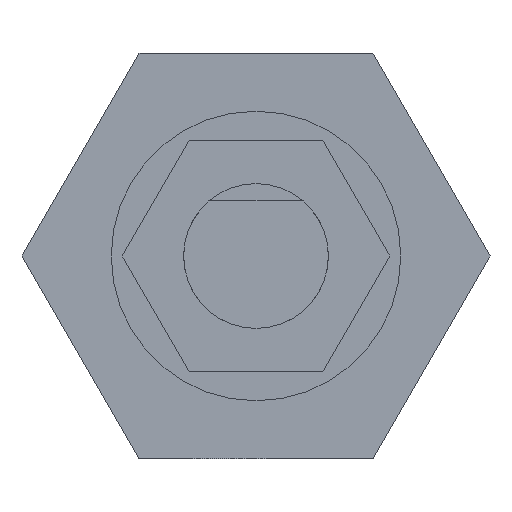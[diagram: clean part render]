
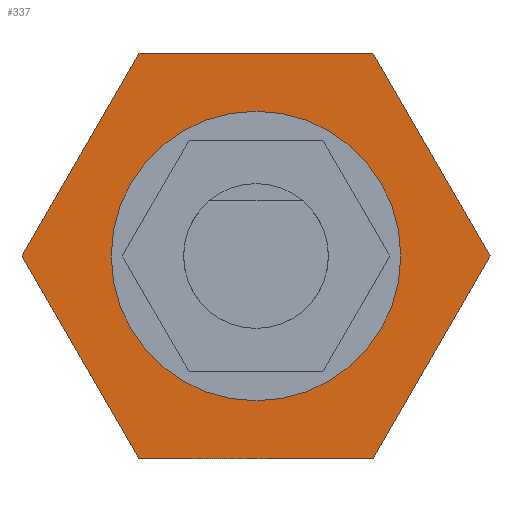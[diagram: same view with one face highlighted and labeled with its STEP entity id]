
A CAD part, left-side view. The second image highlights one B-rep face of the part: STEP entity #337.
In plain terms, the highlighted planar face has unit normal (-1, 0, 0).
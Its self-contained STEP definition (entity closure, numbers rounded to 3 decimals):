
#102 = LINE ( 'NONE', #122, #130 ) ;
#104 = DIRECTION ( 'NONE',  ( 0., 0., 1. ) ) ;
#114 = FACE_OUTER_BOUND ( 'NONE', #338, .T. ) ;
#118 = DIRECTION ( 'NONE',  ( -1., 0., 0. ) ) ;
#119 = CARTESIAN_POINT ( 'NONE',  ( -6., 0., 0. ) ) ;
#120 = AXIS2_PLACEMENT_3D ( 'NONE', #119, #118, #104 ) ;
#121 = PLANE ( 'NONE',  #120 ) ;
#122 = CARTESIAN_POINT ( 'NONE',  ( -6., 4.041, -7. ) ) ;
#123 = FACE_BOUND ( 'NONE', #431, .T. ) ;
#124 = DIRECTION ( 'NONE',  ( 0., 0.5, 0.866 ) ) ;
#125 = DIRECTION ( 'NONE',  ( 0., -1., 0. ) ) ;
#126 = VECTOR ( 'NONE', #125, 1000. ) ;
#127 = CARTESIAN_POINT ( 'NONE',  ( -6., 4.041, 7. ) ) ;
#128 = LINE ( 'NONE', #127, #126 ) ;
#129 = CARTESIAN_POINT ( 'NONE',  ( -6., -4.041, -7. ) ) ;
#130 = VECTOR ( 'NONE', #124, 1000. ) ;
#131 = CARTESIAN_POINT ( 'NONE',  ( -6., -4.041, 7. ) ) ;
#132 = LINE ( 'NONE', #140, #139 ) ;
#133 = CARTESIAN_POINT ( 'NONE',  ( -6., -8.083, 0. ) ) ;
#134 = DIRECTION ( 'NONE',  ( 0., -0.5, -0.866 ) ) ;
#135 = VECTOR ( 'NONE', #134, 1000. ) ;
#136 = CARTESIAN_POINT ( 'NONE',  ( -6., -4.041, 7. ) ) ;
#137 = LINE ( 'NONE', #136, #135 ) ;
#138 = DIRECTION ( 'NONE',  ( 0., 0.5, -0.866 ) ) ;
#139 = VECTOR ( 'NONE', #138, 1000. ) ;
#140 = CARTESIAN_POINT ( 'NONE',  ( -6., -8.083, 0. ) ) ;
#145 = DIRECTION ( 'NONE',  ( 0., -0.5, 0.866 ) ) ;
#146 = VECTOR ( 'NONE', #145, 1000. ) ;
#147 = CARTESIAN_POINT ( 'NONE',  ( -6., 4.041, 7. ) ) ;
#148 = CARTESIAN_POINT ( 'NONE',  ( -6., 8.083, 0. ) ) ;
#149 = LINE ( 'NONE', #148, #146 ) ;
#150 = CARTESIAN_POINT ( 'NONE',  ( -6., 8.083, 0. ) ) ;
#151 = CARTESIAN_POINT ( 'NONE',  ( -6., 4.041, -7. ) ) ;
#203 = ORIENTED_EDGE ( 'NONE', *, *, #320, .F. ) ;
#317 = VERTEX_POINT ( 'NONE', #779 ) ;
#319 = VERTEX_POINT ( 'NONE', #778 ) ;
#320 = EDGE_CURVE ( 'NONE', #317, #319, #777, .T. ) ;
#337 = ADVANCED_FACE ( 'NONE', ( #114, #123 ), #121, .T. ) ;
#338 = EDGE_LOOP ( 'NONE', ( #339, #343, #346, #349, #352, #433 ) ) ;
#339 = ORIENTED_EDGE ( 'NONE', *, *, #340, .F. ) ;
#340 = EDGE_CURVE ( 'NONE', #341, #342, #132, .T. ) ;
#341 = VERTEX_POINT ( 'NONE', #133 ) ;
#342 = VERTEX_POINT ( 'NONE', #129 ) ;
#343 = ORIENTED_EDGE ( 'NONE', *, *, #344, .F. ) ;
#344 = EDGE_CURVE ( 'NONE', #345, #341, #137, .T. ) ;
#345 = VERTEX_POINT ( 'NONE', #131 ) ;
#346 = ORIENTED_EDGE ( 'NONE', *, *, #347, .F. ) ;
#347 = EDGE_CURVE ( 'NONE', #348, #345, #128, .T. ) ;
#348 = VERTEX_POINT ( 'NONE', #147 ) ;
#349 = ORIENTED_EDGE ( 'NONE', *, *, #350, .F. ) ;
#350 = EDGE_CURVE ( 'NONE', #351, #348, #149, .T. ) ;
#351 = VERTEX_POINT ( 'NONE', #150 ) ;
#352 = ORIENTED_EDGE ( 'NONE', *, *, #353, .F. ) ;
#353 = EDGE_CURVE ( 'NONE', #354, #351, #102, .T. ) ;
#354 = VERTEX_POINT ( 'NONE', #151 ) ;
#430 = EDGE_CURVE ( 'NONE', #319, #317, #877, .T. ) ;
#431 = EDGE_LOOP ( 'NONE', ( #432, #203 ) ) ;
#432 = ORIENTED_EDGE ( 'NONE', *, *, #430, .F. ) ;
#433 = ORIENTED_EDGE ( 'NONE', *, *, #434, .F. ) ;
#434 = EDGE_CURVE ( 'NONE', #342, #354, #872, .T. ) ;
#773 = DIRECTION ( 'NONE',  ( 0., 0., 1. ) ) ;
#774 = DIRECTION ( 'NONE',  ( -1., 0., 0. ) ) ;
#775 = CARTESIAN_POINT ( 'NONE',  ( -6., 0., 0. ) ) ;
#776 = AXIS2_PLACEMENT_3D ( 'NONE', #775, #774, #773 ) ;
#777 = CIRCLE ( 'NONE', #776, 5. ) ;
#778 = CARTESIAN_POINT ( 'NONE',  ( -6., 0., -5. ) ) ;
#779 = CARTESIAN_POINT ( 'NONE',  ( -6., 0., 5. ) ) ;
#869 = DIRECTION ( 'NONE',  ( 0., 1., 0. ) ) ;
#870 = VECTOR ( 'NONE', #869, 1000. ) ;
#871 = CARTESIAN_POINT ( 'NONE',  ( -6., -4.041, -7. ) ) ;
#872 = LINE ( 'NONE', #871, #870 ) ;
#873 = DIRECTION ( 'NONE',  ( 0., 0., 1. ) ) ;
#874 = DIRECTION ( 'NONE',  ( -1., 0., 0. ) ) ;
#875 = CARTESIAN_POINT ( 'NONE',  ( -6., 0., 0. ) ) ;
#876 = AXIS2_PLACEMENT_3D ( 'NONE', #875, #874, #873 ) ;
#877 = CIRCLE ( 'NONE', #876, 5. ) ;
